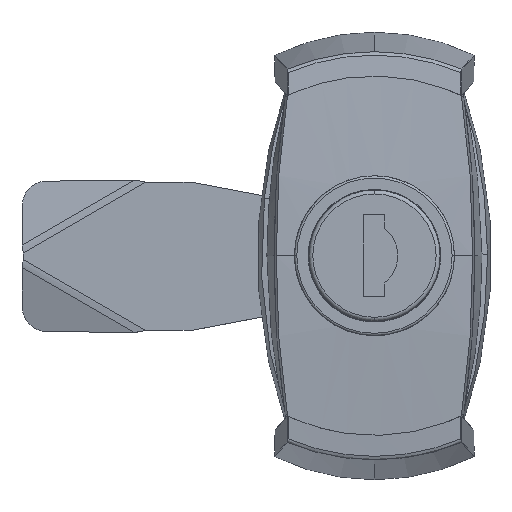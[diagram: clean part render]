
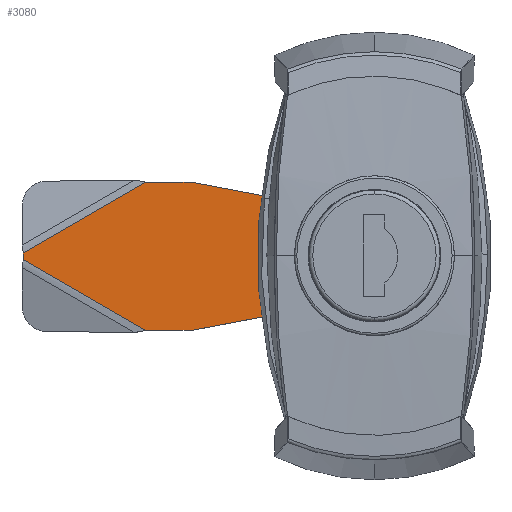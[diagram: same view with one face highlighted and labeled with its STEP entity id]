
A CAD part, top view. The second image highlights one B-rep face of the part: STEP entity #3080.
In plain terms, the highlighted planar face has unit normal (0, 0, 1).
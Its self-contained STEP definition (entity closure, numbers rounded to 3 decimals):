
#38 = CARTESIAN_POINT ( 'NONE',  ( 45., 6.5, 3. ) ) ;
#1243 = CARTESIAN_POINT ( 'NONE',  ( 10.463, -7.043, 3. ) ) ;
#1825 = CARTESIAN_POINT ( 'NONE',  ( 23.051, 13.105, 3. ) ) ;
#1941 = DIRECTION ( 'NONE',  ( -0.866, 0.5, 0. ) ) ;
#2103 = DIRECTION ( 'NONE',  ( 0., 1., 0. ) ) ;
#2326 = ORIENTED_EDGE ( 'NONE', *, *, #6583, .T. ) ;
#2819 = CARTESIAN_POINT ( 'NONE',  ( 10.463, 7.043, 3. ) ) ;
#2939 = VERTEX_POINT ( 'NONE', #14145 ) ;
#3080 = ADVANCED_FACE ( 'NONE', ( #28846, #28943 ), #32063, .F. ) ;
#3102 = ORIENTED_EDGE ( 'NONE', *, *, #30291, .T. ) ;
#3229 = EDGE_CURVE ( 'NONE', #30971, #14048, #28569, .T. ) ;
#3422 = EDGE_CURVE ( 'NONE', #30971, #22662, #27585, .T. ) ;
#3724 = EDGE_CURVE ( 'NONE', #22662, #6604, #25022, .T. ) ;
#3879 = EDGE_CURVE ( 'NONE', #6604, #20795, #24038, .T. ) ;
#4264 = EDGE_CURVE ( 'NONE', #20795, #30099, #22173, .T. ) ;
#4515 = EDGE_CURVE ( 'NONE', #30099, #19768, #20546, .T. ) ;
#4650 = AXIS2_PLACEMENT_3D ( 'NONE', #25240, #10043, #27781 ) ;
#4779 = EDGE_CURVE ( 'NONE', #19768, #20547, #19329, .T. ) ;
#4800 = ORIENTED_EDGE ( 'NONE', *, *, #3724, .T. ) ;
#4995 = ORIENTED_EDGE ( 'NONE', *, *, #7428, .T. ) ;
#5055 = CARTESIAN_POINT ( 'NONE',  ( 29.295, 9.5, 3. ) ) ;
#5099 = EDGE_CURVE ( 'NONE', #20547, #8049, #17458, .T. ) ;
#5142 = CARTESIAN_POINT ( 'NONE',  ( 10., -4.05, 3. ) ) ;
#5368 = EDGE_CURVE ( 'NONE', #18870, #14719, #16275, .T. ) ;
#5387 = DIRECTION ( 'NONE',  ( -1., 0., 0. ) ) ;
#5428 = VECTOR ( 'NONE', #32336, 1000. ) ;
#5508 = CARTESIAN_POINT ( 'NONE',  ( 1.383, -8.387, 3. ) ) ;
#5696 = EDGE_CURVE ( 'NONE', #14719, #13047, #14221, .T. ) ;
#5952 = EDGE_CURVE ( 'NONE', #13047, #14954, #13208, .T. ) ;
#6001 = CARTESIAN_POINT ( 'NONE',  ( 29.295, -9.5, 3. ) ) ;
#6144 = EDGE_CURVE ( 'NONE', #14954, #14048, #12033, .T. ) ;
#6175 = DIRECTION ( 'NONE',  ( 0.983, -0.185, 0. ) ) ;
#6253 = EDGE_CURVE ( 'NONE', #2939, #17143, #11586, .T. ) ;
#6353 = CARTESIAN_POINT ( 'NONE',  ( 10.463, -7.043, 3. ) ) ;
#6583 = EDGE_CURVE ( 'NONE', #17143, #28761, #9730, .T. ) ;
#6604 = VERTEX_POINT ( 'NONE', #5055 ) ;
#6758 = ORIENTED_EDGE ( 'NONE', *, *, #6253, .T. ) ;
#6969 = LINE ( 'NONE', #21275, #23138 ) ;
#7138 = CIRCLE ( 'NONE', #4650, 8.5 ) ;
#7180 = EDGE_CURVE ( 'NONE', #28761, #14917, #7748, .T. ) ;
#7428 = EDGE_CURVE ( 'NONE', #14917, #2939, #6969, .T. ) ;
#7678 = VECTOR ( 'NONE', #24251, 1000. ) ;
#7748 = LINE ( 'NONE', #24560, #7678 ) ;
#8049 = VERTEX_POINT ( 'NONE', #9615 ) ;
#8123 = AXIS2_PLACEMENT_3D ( 'NONE', #31348, #31241, #30812 ) ;
#9320 = CARTESIAN_POINT ( 'NONE',  ( 4.05, -4.05, 3. ) ) ;
#9615 = CARTESIAN_POINT ( 'NONE',  ( -8.5, 0., 3. ) ) ;
#9653 = VECTOR ( 'NONE', #5387, 1000. ) ;
#9730 = LINE ( 'NONE', #5142, #9653 ) ;
#10043 = DIRECTION ( 'NONE',  ( 0., 0., 1. ) ) ;
#10699 = DIRECTION ( 'NONE',  ( -0.987, 0.163, 0. ) ) ;
#11096 = VECTOR ( 'NONE', #25856, 1000. ) ;
#11173 = DIRECTION ( 'NONE',  ( -1., 0., 0. ) ) ;
#11201 = DIRECTION ( 'NONE',  ( 0., 0., -1. ) ) ;
#11206 = CARTESIAN_POINT ( 'NONE',  ( 10., -9.5, 3. ) ) ;
#11239 = CARTESIAN_POINT ( 'NONE',  ( 9.593, 7.033, 3. ) ) ;
#11586 = LINE ( 'NONE', #26419, #11096 ) ;
#11617 = VECTOR ( 'NONE', #31661, 1000. ) ;
#11893 = CARTESIAN_POINT ( 'NONE',  ( 23.5, -9.5, 3. ) ) ;
#12033 = LINE ( 'NONE', #29769, #11617 ) ;
#12736 = DIRECTION ( 'NONE',  ( 1., 0., 0. ) ) ;
#12846 = DIRECTION ( 'NONE',  ( 0., 0., -1. ) ) ;
#12954 = CARTESIAN_POINT ( 'NONE',  ( 10., 9.5, 3. ) ) ;
#12980 = ORIENTED_EDGE ( 'NONE', *, *, #3422, .T. ) ;
#13047 = VERTEX_POINT ( 'NONE', #1243 ) ;
#13056 = ORIENTED_EDGE ( 'NONE', *, *, #7180, .T. ) ;
#13119 = ORIENTED_EDGE ( 'NONE', *, *, #5952, .T. ) ;
#13180 = VECTOR ( 'NONE', #6175, 1000. ) ;
#13208 = LINE ( 'NONE', #6353, #13180 ) ;
#14028 = CARTESIAN_POINT ( 'NONE',  ( -4.05, -4.05, 3. ) ) ;
#14048 = VERTEX_POINT ( 'NONE', #6001 ) ;
#14145 = CARTESIAN_POINT ( 'NONE',  ( 4.05, 4.05, 3. ) ) ;
#14221 = CIRCLE ( 'NONE', #25678, 2.5 ) ;
#14719 = VERTEX_POINT ( 'NONE', #19087 ) ;
#14917 = VERTEX_POINT ( 'NONE', #15403 ) ;
#14919 = DIRECTION ( 'NONE',  ( -0.866, -0.5, 0. ) ) ;
#14954 = VERTEX_POINT ( 'NONE', #11893 ) ;
#15107 = ORIENTED_EDGE ( 'NONE', *, *, #3879, .T. ) ;
#15304 = CARTESIAN_POINT ( 'NONE',  ( 23.5, 9.5, 3. ) ) ;
#15334 = ORIENTED_EDGE ( 'NONE', *, *, #4264, .T. ) ;
#15354 = CARTESIAN_POINT ( 'NONE',  ( 14.824, -17.855, 3. ) ) ;
#15403 = CARTESIAN_POINT ( 'NONE',  ( -4.05, 4.05, 3. ) ) ;
#15994 = ORIENTED_EDGE ( 'NONE', *, *, #4779, .T. ) ;
#16080 = VECTOR ( 'NONE', #19161, 1000. ) ;
#16275 = LINE ( 'NONE', #19368, #16080 ) ;
#16654 = ORIENTED_EDGE ( 'NONE', *, *, #5696, .T. ) ;
#16688 = ORIENTED_EDGE ( 'NONE', *, *, #5368, .T. ) ;
#16888 = ORIENTED_EDGE ( 'NONE', *, *, #4515, .T. ) ;
#17143 = VERTEX_POINT ( 'NONE', #9320 ) ;
#17458 = CIRCLE ( 'NONE', #28594, 8.5 ) ;
#18870 = VERTEX_POINT ( 'NONE', #5508 ) ;
#19087 = CARTESIAN_POINT ( 'NONE',  ( 9.593, -7.033, 3. ) ) ;
#19161 = DIRECTION ( 'NONE',  ( 0.987, 0.163, 0. ) ) ;
#19329 = LINE ( 'NONE', #28839, #19484 ) ;
#19368 = CARTESIAN_POINT ( 'NONE',  ( 9.593, -7.033, 3. ) ) ;
#19484 = VECTOR ( 'NONE', #10699, 1000. ) ;
#19768 = VERTEX_POINT ( 'NONE', #11239 ) ;
#19947 = CARTESIAN_POINT ( 'NONE',  ( 45., -0.433, 3. ) ) ;
#20515 = DIRECTION ( 'NONE',  ( 1., 0., 0. ) ) ;
#20546 = CIRCLE ( 'NONE', #31119, 2.5 ) ;
#20547 = VERTEX_POINT ( 'NONE', #31922 ) ;
#20795 = VERTEX_POINT ( 'NONE', #15304 ) ;
#21275 = CARTESIAN_POINT ( 'NONE',  ( 10., 4.05, 3. ) ) ;
#21519 = EDGE_LOOP ( 'NONE', ( #6758, #2326, #13056, #4995 ) ) ;
#21995 = ORIENTED_EDGE ( 'NONE', *, *, #6144, .T. ) ;
#22173 = LINE ( 'NONE', #32863, #5428 ) ;
#22662 = VERTEX_POINT ( 'NONE', #31833 ) ;
#23138 = VECTOR ( 'NONE', #20515, 1000. ) ;
#23654 = VECTOR ( 'NONE', #23730, 1000. ) ;
#23730 = DIRECTION ( 'NONE',  ( -1., 0., 0. ) ) ;
#24038 = LINE ( 'NONE', #24948, #23654 ) ;
#24251 = DIRECTION ( 'NONE',  ( 0., 1., 0. ) ) ;
#24560 = CARTESIAN_POINT ( 'NONE',  ( -4.05, -9.5, 3. ) ) ;
#24948 = CARTESIAN_POINT ( 'NONE',  ( 42., 9.5, 3. ) ) ;
#25015 = VECTOR ( 'NONE', #1941, 1000. ) ;
#25022 = LINE ( 'NONE', #1825, #25015 ) ;
#25240 = CARTESIAN_POINT ( 'NONE',  ( 0., 0., 3. ) ) ;
#25678 = AXIS2_PLACEMENT_3D ( 'NONE', #11206, #11201, #11173 ) ;
#25856 = DIRECTION ( 'NONE',  ( 0., -1., 0. ) ) ;
#26419 = CARTESIAN_POINT ( 'NONE',  ( 4.05, -9.5, 3. ) ) ;
#26918 = EDGE_LOOP ( 'NONE', ( #28420, #12980, #4800, #15107, #15334, #16888, #15994, #32333, #3102, #16688, #16654, #13119, #21995 ) ) ;
#27558 = VECTOR ( 'NONE', #2103, 1000. ) ;
#27585 = LINE ( 'NONE', #38, #27558 ) ;
#27781 = DIRECTION ( 'NONE',  ( 1., 0., 0. ) ) ;
#28420 = ORIENTED_EDGE ( 'NONE', *, *, #3229, .F. ) ;
#28422 = VECTOR ( 'NONE', #14919, 1000. ) ;
#28569 = LINE ( 'NONE', #15354, #28422 ) ;
#28594 = AXIS2_PLACEMENT_3D ( 'NONE', #29600, #29569, #29529 ) ;
#28761 = VERTEX_POINT ( 'NONE', #14028 ) ;
#28839 = CARTESIAN_POINT ( 'NONE',  ( 9.593, 7.033, 3. ) ) ;
#28846 = FACE_OUTER_BOUND ( 'NONE', #26918, .T. ) ;
#28943 = FACE_BOUND ( 'NONE', #21519, .T. ) ;
#29529 = DIRECTION ( 'NONE',  ( 1., 0., 0. ) ) ;
#29569 = DIRECTION ( 'NONE',  ( 0., 0., 1. ) ) ;
#29600 = CARTESIAN_POINT ( 'NONE',  ( 0., 0., 3. ) ) ;
#29769 = CARTESIAN_POINT ( 'NONE',  ( 42., -9.5, 3. ) ) ;
#30099 = VERTEX_POINT ( 'NONE', #2819 ) ;
#30291 = EDGE_CURVE ( 'NONE', #8049, #18870, #7138, .T. ) ;
#30812 = DIRECTION ( 'NONE',  ( -1., 0., 0. ) ) ;
#30971 = VERTEX_POINT ( 'NONE', #19947 ) ;
#31119 = AXIS2_PLACEMENT_3D ( 'NONE', #12954, #12846, #12736 ) ;
#31241 = DIRECTION ( 'NONE',  ( 0., 0., -1. ) ) ;
#31348 = CARTESIAN_POINT ( 'NONE',  ( 10., -9.5, 3. ) ) ;
#31661 = DIRECTION ( 'NONE',  ( 1., 0., 0. ) ) ;
#31833 = CARTESIAN_POINT ( 'NONE',  ( 45., 0.433, 3. ) ) ;
#31922 = CARTESIAN_POINT ( 'NONE',  ( 1.383, 8.387, 3. ) ) ;
#32063 = PLANE ( 'NONE',  #8123 ) ;
#32333 = ORIENTED_EDGE ( 'NONE', *, *, #5099, .T. ) ;
#32336 = DIRECTION ( 'NONE',  ( -0.983, -0.185, 0. ) ) ;
#32863 = CARTESIAN_POINT ( 'NONE',  ( 10.463, 7.043, 3. ) ) ;
